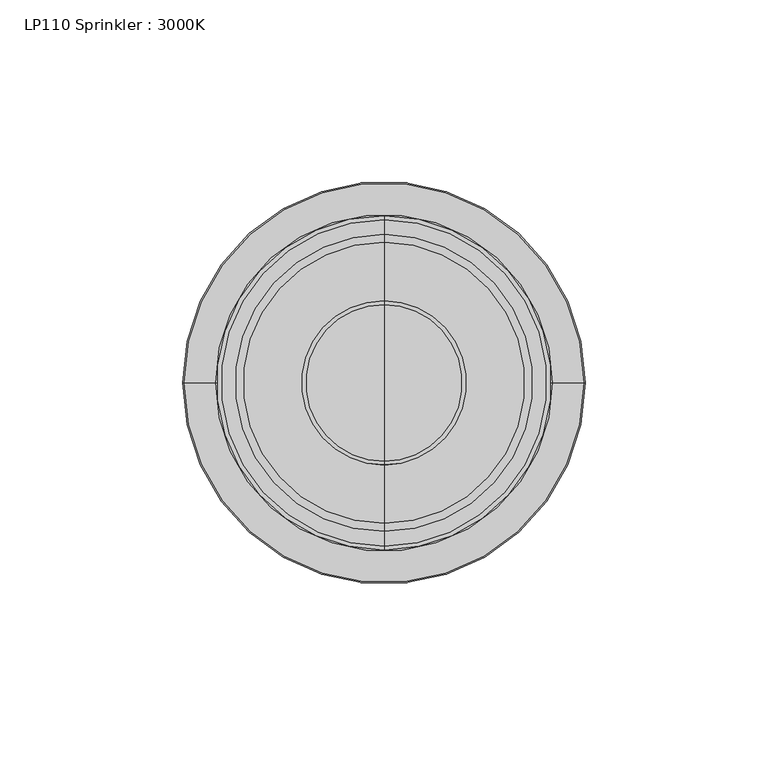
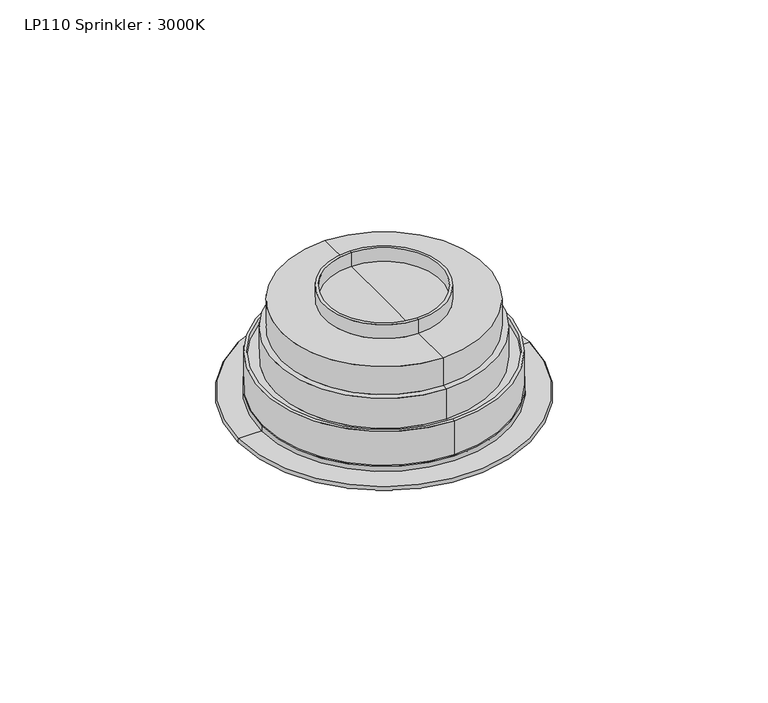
"""IFC4 building model written with IfcOpenShell, lengths in millimetres: light fixture geometry, LP110 Sprinkler : 3000K."""

from ifc_helpers import new_model, si_unit, point, frame, frame_2d, origin, place, context, project, spatial, polyline, circle_curve, ellipse_curve, trimmed, segment, composite_curve, outline, extrude, source, transform, mapped, element, save
from ifc_brep_helpers import plane_surface, cylinder_surface, revolved_surface, advanced_brep


def lp110_sprinkler_3000k_38dead4c(model_context):
    return source(origin(), model_context, "Body", "SolidModel", [
        extrude(outline(polyline([(3989.7308599, 2.0857815), (3994.29, 2.0857815), (3994.29, 1.1857815), (3990.6554494, 1.1857815), (3990.6554494, -2.1632582), (3989.7308599, -2.1632582), (3989.7308599, 2.0857815)])), frame((0.0, 10.5623217, 0.0), z_axis=(0.0, 1.0, 0.0), x_axis=(0.0, 0.0, 1.0)), (0.0, 0.0, 1.0), 5.2232579),
        extrude(outline(polyline([(2.8356298, 3989.7308599), (-1.4134099, 3989.7308599), (-1.4134099, 3990.6554494), (1.9356298, 3990.6554494), (1.9356298, 3994.29), (2.8356298, 3994.29), (2.8356298, 3989.7308599)])), frame((-17.283659, 0.0, 0.0), z_axis=(1.0, 0.0, 0.0), x_axis=(0.0, 1.0, 0.0)), (0.0, 0.0, 1.0), 5.6709658),
        extrude(outline(polyline([(2.8356298, 3989.7308599), (-1.4134099, 3989.7308599), (-1.4134099, 3990.6554494), (1.9356298, 3990.6554494), (1.9356298, 3994.29), (2.8356298, 3994.29), (2.8356298, 3989.7308599)])), frame((11.6126932, 0.0, 0.0), z_axis=(1.0, 0.0, 0.0), x_axis=(0.0, 1.0, 0.0)), (0.0, 0.0, 1.0), 5.6709658),
        extrude(outline(polyline([(3989.7308599, 2.0857815), (3994.29, 2.0857815), (3994.29, 1.1857815), (3990.6554494, 1.1857815), (3990.6554494, -2.1632582), (3989.7308599, -2.1632582), (3989.7308599, 2.0857815)])), frame((0.0, -15.7855796, 0.0), z_axis=(0.0, 1.0, 0.0), x_axis=(0.0, 0.0, 1.0)), (0.0, 0.0, 1.0), 5.2232579),
        advanced_brep(
        [(0.0, 0.0, 3989.34), (-28.0, 0.0, 3989.34), (28.0, 0.0, 3989.34), (30.0, 0.0, 3991.34), (-30.0, 0.0, 3991.34), (0.0, 0.0, 3991.34)],
        [
            (0, 1),
            (1, 2, circle_curve(frame((0.0, 0.0, 3989.34), z_axis=(0.0, 0.0, -1.0), x_axis=(-1.0, 0.0, 0.0)), 28.0)),
            (2, 0),
            (2, 1, circle_curve(frame((0.0, 0.0, 3989.34), z_axis=(0.0, 0.0, -1.0), x_axis=(-1.0, 0.0, 0.0)), 28.0)),
            (3, 4, circle_curve(frame((0.0, 0.0, 3991.34), z_axis=(0.0, 0.0, 1.0), x_axis=(-1.0, 0.0, 0.0)), 30.0)),
            (4, 5),
            (5, 3),
            (4, 3, circle_curve(frame((0.0, 0.0, 3991.34), z_axis=(0.0, 0.0, 1.0), x_axis=(-1.0, 0.0, 0.0)), 30.0)),
            (1, 4),
            (3, 2),
        ],
        [
            plane_surface(frame((0.0, 0.0, 3989.34), z_axis=(0.0, 0.0, -1.0), x_axis=(-1.0, 0.0, 0.0))),
            plane_surface(frame((0.0, 0.0, 3991.34), z_axis=(0.0, 0.0, 1.0), x_axis=(-1.0, 0.0, 0.0))),
            revolved_surface(polyline([(-30.0, 0.0, 3991.34), (-28.0, 0.0, 3989.34)]), (0.0, 0.0, 4324.4347907), (0.0, 0.0, -1.0)),
        ],
        [
            (0, [[1, 2, 3]]),
            (0, [[-3, 4, -1]]),
            (1, [[5, 6, 7]]),
            (1, [[8, -7, -6]]),
            (2, [[-2, 9, -5, 10]]),
            (2, [[-4, -10, -8, -9]]),
        ],
    ),
        extrude(outline(composite_curve([segment(trimmed(circle_curve(frame_2d((0.153956, -0.1564231)), 40.0), [point((-39.846044, -0.1564231))], [point((40.153956, -0.1564231))], False, "CARTESIAN"), True, "CONTINUOUS"), segment(trimmed(circle_curve(frame_2d((0.153956, -0.1564231)), 40.0), [point((40.153956, -0.1564231))], [point((-39.846044, -0.1564231))], False, "CARTESIAN"), True, "CONTINUOUS")], self_intersect=False), holes=[composite_curve([segment(trimmed(circle_curve(frame_2d((0.153956, -0.1564231)), 29.1123547), [point((-28.9583987, -0.1564231))], [point((29.2663107, -0.1564231))], True, "CARTESIAN"), True, "CONTINUOUS"), segment(trimmed(circle_curve(frame_2d((0.153956, -0.1564231)), 29.1123547), [point((29.2663107, -0.1564231))], [point((-28.9583987, -0.1564231))], True, "CARTESIAN"), True, "CONTINUOUS")], self_intersect=False)]), frame((0.0, 0.0, 3994.29), z_axis=(0.0, 0.0, 1.0), x_axis=(1.0, 0.0, 0.0)), (0.0, 0.0, 1.0), 0.5),
        advanced_brep(
        [(-46.0, 0.0, 4000.0), (46.0, 0.0, 4000.0), (0.0, 0.0, 4000.0), (-46.0, 0.0, 4001.88), (46.0, 0.0, 4001.88), (0.0, 0.0, 4001.88)],
        [
            (0, 1, circle_curve(frame((0.0, 0.0, 4000.0), z_axis=(0.0, 0.0, -1.0), x_axis=(1.0, 0.0, 0.0)), 46.0)),
            (1, 2),
            (2, 0),
            (1, 0, circle_curve(frame((0.0, 0.0, 4000.0), z_axis=(0.0, 0.0, -1.0), x_axis=(1.0, 0.0, 0.0)), 46.0)),
            (3, 4, circle_curve(frame((0.0, 0.0, 4001.88), z_axis=(0.0, 0.0, -1.0), x_axis=(1.0, 0.0, 0.0)), 46.0)),
            (4, 1),
            (0, 3),
            (4, 3, circle_curve(frame((0.0, 0.0, 4001.88), z_axis=(0.0, 0.0, -1.0), x_axis=(1.0, 0.0, 0.0)), 46.0)),
            (5, 4),
            (3, 5),
        ],
        [
            plane_surface(frame((0.0, 0.0, 4000.0), z_axis=(0.0, 0.0, -1.0), x_axis=(1.0, 0.0, 0.0))),
            cylinder_surface(frame((0.0, 0.0, 3993.7591953), z_axis=(0.0, 0.0, 1.0), x_axis=(1.0, 0.0, 0.0)), 46.0),
            plane_surface(frame((0.0, 0.0, 4001.88), z_axis=(0.0, 0.0, 1.0), x_axis=(1.0, 0.0, 0.0))),
        ],
        [
            (0, [[1, 2, 3]]),
            (0, [[4, -3, -2]]),
            (1, [[5, 6, -1, 7]]),
            (1, [[8, -7, -4, -6]]),
            (2, [[9, -5, 10]]),
            (2, [[-10, -8, -9]]),
        ],
    ),
        advanced_brep(
        [(-54.4320431, 0.0, 3998.2898924), (54.4320431, 0.0, 3998.2898924), (47.8497028, 0.0, 3994.79), (-47.8497028, 0.0, 3994.79), (-54.7151231, 0.0, 4000.0), (54.7151231, 0.0, 4000.0), (0.0, 0.0, 4000.0), (0.0, 0.0, 3994.79)],
        [
            (0, 1, circle_curve(frame((0.0, 0.0, 3998.2898924), z_axis=(0.0, 0.0, -1.0), x_axis=(1.0, 0.0, 0.0)), 54.4320431)),
            (1, 2),
            (2, 3, circle_curve(frame((0.0, 0.0, 3994.79), z_axis=(0.0, 0.0, 1.0), x_axis=(1.0, 0.0, 0.0)), 47.8497028)),
            (3, 0),
            (1, 0, circle_curve(frame((0.0, 0.0, 3998.2898924), z_axis=(0.0, 0.0, -1.0), x_axis=(1.0, 0.0, 0.0)), 54.4320431)),
            (3, 2, circle_curve(frame((0.0, 0.0, 3994.79), z_axis=(0.0, 0.0, 1.0), x_axis=(1.0, 0.0, 0.0)), 47.8497028)),
            (4, 5, circle_curve(frame((0.0, 0.0, 4000.0), z_axis=(0.0, 0.0, -1.0), x_axis=(1.0, 0.0, 0.0)), 54.7151231)),
            (5, 1, circle_curve(frame((53.9198655, 0.0, 3999.2531583), z_axis=(0.0, 1.0, 0.0), x_axis=(1.0, 0.0, 0.0)), 1.0909661)),
            (0, 4, circle_curve(frame((-53.9198655, 0.0, 3999.2531583), z_axis=(0.0, 1.0, 0.0), x_axis=(-1.0, 0.0, 0.0)), 1.0909661)),
            (5, 4, circle_curve(frame((0.0, 0.0, 4000.0), z_axis=(0.0, 0.0, -1.0), x_axis=(1.0, 0.0, 0.0)), 54.7151231)),
            (6, 5),
            (4, 6),
            (2, 7),
            (7, 3),
        ],
        [
            revolved_surface(polyline([(47.8497028, 0.0, 3994.79), (54.4320431, 0.0, 3998.2898924)]), (0.0, 0.0, 4324.4347907), (0.0, 0.0, 1.0)),
            revolved_surface(trimmed(ellipse_curve(frame((53.9198655, 0.0, 3999.2531583), z_axis=(0.0, -1.0, 0.0), x_axis=(1.0, 0.0, 0.0)), 1.0909661, 1.0909661), [point((54.4320431, 0.0, 3998.2898924))], [point((54.7151231, 0.0, 4000.0))], True, "CARTESIAN"), (0.0, 0.0, 4324.4347907), (0.0, 0.0, 1.0)),
            plane_surface(frame((0.0, 0.0, 4000.0), z_axis=(0.0, 0.0, 1.0), x_axis=(1.0, 0.0, 0.0))),
            plane_surface(frame((0.0, 0.0, 3994.79), z_axis=(0.0, 0.0, -1.0), x_axis=(1.0, 0.0, 0.0))),
        ],
        [
            (0, [[1, 2, 3, 4]]),
            (0, [[5, -4, 6, -2]]),
            (1, [[7, 8, -1, 9]]),
            (1, [[10, -9, -5, -8]]),
            (2, [[11, -7, 12]]),
            (2, [[-12, -10, -11]]),
            (3, [[-3, 13, 14]]),
            (3, [[-6, -14, -13]]),
        ],
    ),
        advanced_brep(
        [(0.0, 38.41986, 4025.2200055), (0.0, -38.41986, 4025.2200055), (0.0, -38.41986, 4036.27), (0.0, 38.41986, 4036.27), (0.0, 40.6278014, 4025.2200055), (0.0, -40.6278014, 4025.2200055), (0.0, 40.6278014, 4013.3214017), (0.0, -40.6278014, 4013.3214017), (0.0, 44.6302193, 4013.3214017), (0.0, -44.6302193, 4013.3214017), (0.0, 44.6302193, 4015.63), (0.0, -44.6302193, 4015.63), (0.0, 45.6921331, 4015.63), (0.0, -45.6921331, 4015.63), (0.0, 45.6921331, 4000.0), (0.0, -45.6921331, 4000.0), (0.0, 0.0, 4000.0), (0.0, -22.4510975, 4036.27), (0.0, 22.4510975, 4036.27), (0.0, 21.4345521, 4036.27), (0.0, -21.4345521, 4036.27), (0.0, 0.0, 4036.27), (0.0, 21.4345521, 4041.77), (0.0, -21.4345521, 4041.77), (0.0, 22.4510975, 4041.77), (0.0, -22.4510975, 4041.77)],
        [
            (0, 1, circle_curve(frame((0.0, 0.0, 4025.2200055), z_axis=(0.0, 0.0, 1.0), x_axis=(0.0, -1.0, 0.0)), 38.41986)),
            (1, 2),
            (2, 3, circle_curve(frame((0.0, 0.0, 4036.27), z_axis=(0.0, 0.0, -1.0), x_axis=(0.0, -1.0, 0.0)), 38.41986)),
            (3, 0),
            (1, 0, circle_curve(frame((0.0, 0.0, 4025.2200055), z_axis=(0.0, 0.0, 1.0), x_axis=(0.0, -1.0, 0.0)), 38.41986)),
            (3, 2, circle_curve(frame((0.0, 0.0, 4036.27), z_axis=(0.0, 0.0, -1.0), x_axis=(0.0, -1.0, 0.0)), 38.41986)),
            (4, 5, circle_curve(frame((0.0, 0.0, 4025.2200055), z_axis=(0.0, 0.0, 1.0), x_axis=(0.0, -1.0, 0.0)), 40.6278014)),
            (5, 1),
            (0, 4),
            (5, 4, circle_curve(frame((0.0, 0.0, 4025.2200055), z_axis=(0.0, 0.0, 1.0), x_axis=(0.0, -1.0, 0.0)), 40.6278014)),
            (6, 7, circle_curve(frame((0.0, 0.0, 4013.3214017), z_axis=(0.0, 0.0, 1.0), x_axis=(0.0, -1.0, 0.0)), 40.6278014)),
            (7, 5),
            (4, 6),
            (7, 6, circle_curve(frame((0.0, 0.0, 4013.3214017), z_axis=(0.0, 0.0, 1.0), x_axis=(0.0, -1.0, 0.0)), 40.6278014)),
            (8, 9, circle_curve(frame((0.0, 0.0, 4013.3214017), z_axis=(0.0, 0.0, 1.0), x_axis=(0.0, -1.0, 0.0)), 44.6302193)),
            (9, 7),
            (6, 8),
            (9, 8, circle_curve(frame((0.0, 0.0, 4013.3214017), z_axis=(0.0, 0.0, 1.0), x_axis=(0.0, -1.0, 0.0)), 44.6302193)),
            (10, 11, circle_curve(frame((0.0, 0.0, 4015.63), z_axis=(0.0, 0.0, 1.0), x_axis=(0.0, -1.0, 0.0)), 44.6302193)),
            (11, 9),
            (8, 10),
            (11, 10, circle_curve(frame((0.0, 0.0, 4015.63), z_axis=(0.0, 0.0, 1.0), x_axis=(0.0, -1.0, 0.0)), 44.6302193)),
            (12, 13, circle_curve(frame((0.0, 0.0, 4015.63), z_axis=(0.0, 0.0, 1.0), x_axis=(0.0, -1.0, 0.0)), 45.6921331)),
            (13, 11),
            (10, 12),
            (13, 12, circle_curve(frame((0.0, 0.0, 4015.63), z_axis=(0.0, 0.0, 1.0), x_axis=(0.0, -1.0, 0.0)), 45.6921331)),
            (14, 15, circle_curve(frame((0.0, 0.0, 4000.0), z_axis=(0.0, 0.0, 1.0), x_axis=(0.0, -1.0, 0.0)), 45.6921331)),
            (15, 13),
            (12, 14),
            (15, 14, circle_curve(frame((0.0, 0.0, 4000.0), z_axis=(0.0, 0.0, 1.0), x_axis=(0.0, -1.0, 0.0)), 45.6921331)),
            (16, 15),
            (14, 16),
            (2, 17),
            (17, 18, circle_curve(frame((0.0, 0.0, 4036.27), z_axis=(0.0, 0.0, -1.0), x_axis=(0.0, -1.0, 0.0)), 22.4510975)),
            (18, 3),
            (18, 17, circle_curve(frame((0.0, 0.0, 4036.27), z_axis=(0.0, 0.0, -1.0), x_axis=(0.0, -1.0, 0.0)), 22.4510975)),
            (19, 20, circle_curve(frame((0.0, 0.0, 4036.27), z_axis=(0.0, 0.0, 1.0), x_axis=(0.0, -1.0, 0.0)), 21.4345521)),
            (20, 21),
            (21, 19),
            (20, 19, circle_curve(frame((0.0, 0.0, 4036.27), z_axis=(0.0, 0.0, 1.0), x_axis=(0.0, -1.0, 0.0)), 21.4345521)),
            (22, 23, circle_curve(frame((0.0, 0.0, 4041.77), z_axis=(0.0, 0.0, 1.0), x_axis=(0.0, -1.0, 0.0)), 21.4345521)),
            (23, 20),
            (19, 22),
            (23, 22, circle_curve(frame((0.0, 0.0, 4041.77), z_axis=(0.0, 0.0, 1.0), x_axis=(0.0, -1.0, 0.0)), 21.4345521)),
            (24, 25, circle_curve(frame((0.0, 0.0, 4041.77), z_axis=(0.0, 0.0, 1.0), x_axis=(0.0, -1.0, 0.0)), 22.4510975)),
            (25, 23),
            (22, 24),
            (25, 24, circle_curve(frame((0.0, 0.0, 4041.77), z_axis=(0.0, 0.0, 1.0), x_axis=(0.0, -1.0, 0.0)), 22.4510975)),
            (17, 25),
            (24, 18),
        ],
        [
            cylinder_surface(frame((0.0, 0.0, 4369.9206714), z_axis=(0.0, 0.0, -1.0), x_axis=(0.0, -1.0, 0.0)), 38.41986),
            plane_surface(frame((0.0, 0.0, 4025.2200055), z_axis=(0.0, 0.0, 1.0), x_axis=(0.0, -1.0, 0.0))),
            cylinder_surface(frame((0.0, 0.0, 4369.9206714), z_axis=(0.0, 0.0, -1.0), x_axis=(0.0, -1.0, 0.0)), 40.6278014),
            plane_surface(frame((0.0, 0.0, 4013.3214017), z_axis=(0.0, 0.0, 1.0), x_axis=(0.0, -1.0, 0.0))),
            revolved_surface(polyline([(0.0, -44.6302193, 4013.3214017), (0.0, -44.6302193, 4015.63)]), (0.0, 0.0, 4369.9206714), (0.0, 0.0, -1.0)),
            plane_surface(frame((0.0, 0.0, 4015.63), z_axis=(0.0, 0.0, 1.0), x_axis=(0.0, -1.0, 0.0))),
            cylinder_surface(frame((0.0, 0.0, 4369.9206714), z_axis=(0.0, 0.0, -1.0), x_axis=(0.0, -1.0, 0.0)), 45.6921331),
            plane_surface(frame((0.0, 0.0, 4000.0), z_axis=(0.0, 0.0, -1.0), x_axis=(0.0, -1.0, 0.0))),
            plane_surface(frame((0.0, 0.0, 4036.27), z_axis=(0.0, 0.0, 1.0), x_axis=(0.0, -1.0, 0.0))),
            revolved_surface(polyline([(0.0, -21.4345521, 4036.27), (0.0, -21.4345521, 4041.77)]), (0.0, 0.0, 4369.9206714), (0.0, 0.0, -1.0)),
            plane_surface(frame((0.0, 0.0, 4041.77), z_axis=(0.0, 0.0, 1.0), x_axis=(0.0, -1.0, 0.0))),
            cylinder_surface(frame((0.0, 0.0, 4369.9206714), z_axis=(0.0, 0.0, -1.0), x_axis=(0.0, -1.0, 0.0)), 22.4510975),
        ],
        [
            (0, [[1, 2, 3, 4]]),
            (0, [[5, -4, 6, -2]]),
            (1, [[7, 8, -1, 9]]),
            (1, [[10, -9, -5, -8]]),
            (2, [[11, 12, -7, 13]]),
            (2, [[14, -13, -10, -12]]),
            (3, [[15, 16, -11, 17]]),
            (3, [[18, -17, -14, -16]]),
            (4, [[19, 20, -15, 21]]),
            (4, [[22, -21, -18, -20]]),
            (5, [[23, 24, -19, 25]]),
            (5, [[26, -25, -22, -24]]),
            (6, [[27, 28, -23, 29]]),
            (6, [[30, -29, -26, -28]]),
            (7, [[31, -27, 32]]),
            (7, [[-32, -30, -31]]),
            (8, [[-3, 33, 34, 35]]),
            (8, [[-6, -35, 36, -33]]),
            (8, [[37, 38, 39]]),
            (8, [[40, -39, -38]]),
            (9, [[41, 42, -37, 43]]),
            (9, [[44, -43, -40, -42]]),
            (10, [[45, 46, -41, 47]]),
            (10, [[48, -47, -44, -46]]),
            (11, [[-34, 49, -45, 50]]),
            (11, [[-36, -50, -48, -49]]),
        ],
    ),
        advanced_brep(
        [(0.0, 45.5019222, 4000.0), (0.0, -45.5019222, 4000.0), (0.0, 0.0, 4000.0), (0.0, 46.154328, 3998.87), (0.0, -46.154328, 3998.87), (0.0, 0.0, 3998.87)],
        [
            (0, 1, circle_curve(frame((0.0, 0.0, 4000.0), z_axis=(0.0, 0.0, 1.0), x_axis=(0.0, -1.0, 0.0)), 45.5019222)),
            (1, 2),
            (2, 0),
            (1, 0, circle_curve(frame((0.0, 0.0, 4000.0), z_axis=(0.0, 0.0, 1.0), x_axis=(0.0, -1.0, 0.0)), 45.5019222)),
            (3, 4, circle_curve(frame((0.0, 0.0, 3998.87), z_axis=(0.0, 0.0, 1.0), x_axis=(0.0, -1.0, 0.0)), 46.154328)),
            (4, 1, circle_curve(frame((0.0, -46.2918945, 3999.7027574), z_axis=(1.0, 0.0, 0.0), x_axis=(0.0, -1.0, 0.0)), 0.8440435)),
            (0, 3, circle_curve(frame((0.0, 46.2918945, 3999.7027574), z_axis=(1.0, 0.0, 0.0), x_axis=(0.0, 1.0, 0.0)), 0.8440435)),
            (4, 3, circle_curve(frame((0.0, 0.0, 3998.87), z_axis=(0.0, 0.0, 1.0), x_axis=(0.0, -1.0, 0.0)), 46.154328)),
            (5, 4),
            (3, 5),
        ],
        [
            plane_surface(frame((0.0, 0.0, 4000.0), z_axis=(0.0, 0.0, 1.0), x_axis=(0.0, -1.0, 0.0))),
            revolved_surface(trimmed(ellipse_curve(frame((0.0, -46.2918945, 3999.7027574), z_axis=(-1.0, 0.0, 0.0), x_axis=(0.0, -1.0, 0.0)), 0.8440435, 0.8440435), [point((0.0, -45.5019222, 4000.0))], [point((0.0, -46.154328, 3998.87))], True, "CARTESIAN"), (0.0, 0.0, 4284.4582372), (0.0, 0.0, -1.0)),
            plane_surface(frame((0.0, 0.0, 3998.87), z_axis=(0.0, 0.0, -1.0), x_axis=(0.0, -1.0, 0.0))),
        ],
        [
            (0, [[1, 2, 3]]),
            (0, [[4, -3, -2]]),
            (1, [[5, 6, -1, 7]]),
            (1, [[8, -7, -4, -6]]),
            (2, [[9, -5, 10]]),
            (2, [[-10, -8, -9]]),
        ],
    ),
    ])


if __name__ == "__main__":
    model = new_model("IFC4")
    model_context = context("Model", 3, world=origin())
    ifc_project = project(units=[si_unit("LENGTHUNIT", "METRE", prefix="MILLI")], contexts=[model_context])
    site = spatial("IfcSite", under=ifc_project)
    building = spatial("IfcBuilding", under=site)
    placement = place(None, origin())
    lp110_sprinkler_3000k_shape = lp110_sprinkler_3000k_38dead4c(model_context)
    element("IfcLightFixture", 1, ObjectType="LP110 Sprinkler : 3000K", at=placement, inside=building, context=model_context, shape_type="MappedRepresentation", body=[
        mapped(lp110_sprinkler_3000k_shape, transform((0.0, 0.0, 0.0), x_axis=(1.0, 0.0, 0.0), y_axis=(0.0, 1.0, 0.0), z_axis=(0.0, 0.0, 1.0))),
    ])
    save(model, "model.ifc")
